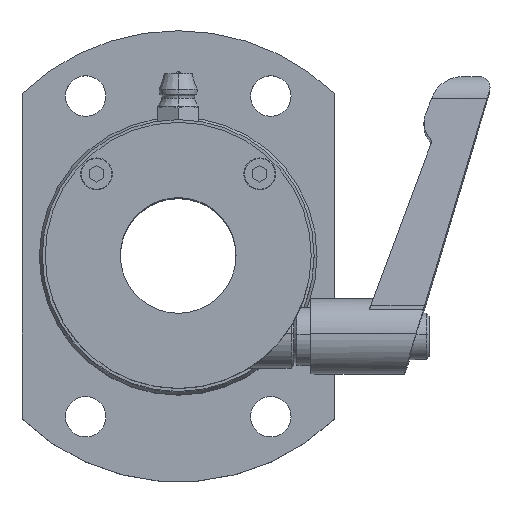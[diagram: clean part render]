
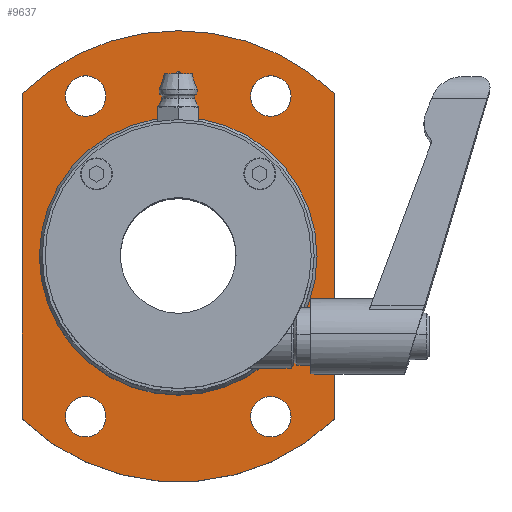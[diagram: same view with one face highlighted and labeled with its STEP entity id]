
A CAD part, top view. The second image highlights one B-rep face of the part: STEP entity #9637.
In plain terms, the highlighted planar face has unit normal (0, 0, 1).
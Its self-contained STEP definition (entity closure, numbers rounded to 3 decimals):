
#24 = CARTESIAN_POINT ( 'NONE',  ( -9.836, -2.51, 69. ) ) ;
#79 = EDGE_LOOP ( 'NONE', ( #1766, #167 ) ) ;
#167 = ORIENTED_EDGE ( 'NONE', *, *, #10853, .T. ) ;
#236 = CARTESIAN_POINT ( 'NONE',  ( -29.336, 25.202, 69. ) ) ;
#260 = VERTEX_POINT ( 'NONE', #4441 ) ;
#526 = EDGE_LOOP ( 'NONE', ( #4472, #8352 ) ) ;
#710 = DIRECTION ( 'NONE',  ( 0., 0., -1. ) ) ;
#801 = CIRCLE ( 'NONE', #9045, 39. ) ;
#805 = CIRCLE ( 'NONE', #8292, 24. ) ;
#854 = CARTESIAN_POINT ( 'NONE',  ( 17.164, -30.653, 69. ) ) ;
#959 = DIRECTION ( 'NONE',  ( 1., 0., 0. ) ) ;
#984 = EDGE_CURVE ( 'NONE', #6433, #5743, #6561, .T. ) ;
#1009 = DIRECTION ( 'NONE',  ( 0., 0., -1. ) ) ;
#1016 = DIRECTION ( 'NONE',  ( 1., 0., 0. ) ) ;
#1035 = DIRECTION ( 'NONE',  ( 1., 0., 0. ) ) ;
#1085 = CARTESIAN_POINT ( 'NONE',  ( 17.164, 25.632, 69. ) ) ;
#1153 = AXIS2_PLACEMENT_3D ( 'NONE', #7115, #4463, #1035 ) ;
#1177 = DIRECTION ( 'NONE',  ( 0., 0., -1. ) ) ;
#1300 = CARTESIAN_POINT ( 'NONE',  ( -9.836, 21.49, 69. ) ) ;
#1440 = CARTESIAN_POINT ( 'NONE',  ( 6.164, 25.202, 69. ) ) ;
#1465 = ORIENTED_EDGE ( 'NONE', *, *, #1522, .F. ) ;
#1485 = VERTEX_POINT ( 'NONE', #6871 ) ;
#1522 = EDGE_CURVE ( 'NONE', #1485, #7098, #7707, .T. ) ;
#1537 = EDGE_CURVE ( 'NONE', #3963, #5462, #9150, .T. ) ;
#1685 = DIRECTION ( 'NONE',  ( 0., 0., -1. ) ) ;
#1751 = ORIENTED_EDGE ( 'NONE', *, *, #8754, .T. ) ;
#1761 = DIRECTION ( 'NONE',  ( 0., 0., -1. ) ) ;
#1766 = ORIENTED_EDGE ( 'NONE', *, *, #984, .T. ) ;
#1830 = AXIS2_PLACEMENT_3D ( 'NONE', #6042, #9334, #7816 ) ;
#1882 = DIRECTION ( 'NONE',  ( 0., 1., 0. ) ) ;
#2042 = CIRCLE ( 'NONE', #7546, 3.5 ) ;
#2291 = AXIS2_PLACEMENT_3D ( 'NONE', #10994, #3253, #2358 ) ;
#2358 = DIRECTION ( 'NONE',  ( 1., 0., 0. ) ) ;
#2382 = CARTESIAN_POINT ( 'NONE',  ( 9.664, 25.202, 69. ) ) ;
#2390 = DIRECTION ( 'NONE',  ( 1., 0., 0. ) ) ;
#2563 = VERTEX_POINT ( 'NONE', #2382 ) ;
#2614 = AXIS2_PLACEMENT_3D ( 'NONE', #3606, #2781, #6166 ) ;
#2644 = FACE_BOUND ( 'NONE', #5084, .T. ) ;
#2649 = CARTESIAN_POINT ( 'NONE',  ( -9.836, -2.51, 69. ) ) ;
#2697 = CARTESIAN_POINT ( 'NONE',  ( -36.836, -30.653, 69. ) ) ;
#2724 = CIRCLE ( 'NONE', #8395, 3.5 ) ;
#2730 = ORIENTED_EDGE ( 'NONE', *, *, #2973, .T. ) ;
#2781 = DIRECTION ( 'NONE',  ( 0., 0., -1. ) ) ;
#2841 = CARTESIAN_POINT ( 'NONE',  ( 2.664, 25.202, 69. ) ) ;
#2929 = AXIS2_PLACEMENT_3D ( 'NONE', #24, #1685, #4206 ) ;
#2973 = EDGE_CURVE ( 'NONE', #8603, #260, #10566, .T. ) ;
#3080 = AXIS2_PLACEMENT_3D ( 'NONE', #10620, #1177, #1016 ) ;
#3168 = EDGE_CURVE ( 'NONE', #5462, #3963, #7162, .T. ) ;
#3253 = DIRECTION ( 'NONE',  ( 0., 0., -1. ) ) ;
#3318 = CARTESIAN_POINT ( 'NONE',  ( -9.836, 28.99, 69. ) ) ;
#3491 = CARTESIAN_POINT ( 'NONE',  ( -25.836, 25.202, 69. ) ) ;
#3606 = CARTESIAN_POINT ( 'NONE',  ( -9.836, -2.51, 69. ) ) ;
#3650 = ORIENTED_EDGE ( 'NONE', *, *, #7217, .T. ) ;
#3963 = VERTEX_POINT ( 'NONE', #236 ) ;
#4159 = ORIENTED_EDGE ( 'NONE', *, *, #6772, .F. ) ;
#4195 = FACE_OUTER_BOUND ( 'NONE', #7241, .T. ) ;
#4206 = DIRECTION ( 'NONE',  ( 0., 1., 0. ) ) ;
#4398 = DIRECTION ( 'NONE',  ( 0., 1., 0. ) ) ;
#4435 = FACE_BOUND ( 'NONE', #5413, .T. ) ;
#4441 = CARTESIAN_POINT ( 'NONE',  ( 9.664, -30.223, 69. ) ) ;
#4463 = DIRECTION ( 'NONE',  ( 0., 0., -1. ) ) ;
#4472 = ORIENTED_EDGE ( 'NONE', *, *, #3168, .T. ) ;
#4720 = CARTESIAN_POINT ( 'NONE',  ( 2.664, -30.223, 69. ) ) ;
#4840 = CARTESIAN_POINT ( 'NONE',  ( -36.836, 25.632, 69. ) ) ;
#4891 = DIRECTION ( 'NONE',  ( 0., 0., -1. ) ) ;
#5084 = EDGE_LOOP ( 'NONE', ( #6586, #2730 ) ) ;
#5180 = VERTEX_POINT ( 'NONE', #2841 ) ;
#5389 = VERTEX_POINT ( 'NONE', #10458 ) ;
#5409 = CARTESIAN_POINT ( 'NONE',  ( -22.336, -30.223, 69. ) ) ;
#5413 = EDGE_LOOP ( 'NONE', ( #7536, #3650 ) ) ;
#5462 = VERTEX_POINT ( 'NONE', #8893 ) ;
#5548 = EDGE_CURVE ( 'NONE', #2563, #5180, #2724, .T. ) ;
#5743 = VERTEX_POINT ( 'NONE', #6163 ) ;
#5770 = AXIS2_PLACEMENT_3D ( 'NONE', #9347, #4891, #9129 ) ;
#5841 = CARTESIAN_POINT ( 'NONE',  ( 6.164, 25.202, 69. ) ) ;
#5974 = DIRECTION ( 'NONE',  ( 1., 0., 0. ) ) ;
#6003 = ORIENTED_EDGE ( 'NONE', *, *, #6876, .T. ) ;
#6042 = CARTESIAN_POINT ( 'NONE',  ( -25.836, 25.202, 69. ) ) ;
#6163 = CARTESIAN_POINT ( 'NONE',  ( -29.336, -30.223, 69. ) ) ;
#6166 = DIRECTION ( 'NONE',  ( 0., 1., 0. ) ) ;
#6244 = ORIENTED_EDGE ( 'NONE', *, *, #10311, .T. ) ;
#6288 = AXIS2_PLACEMENT_3D ( 'NONE', #10177, #8441, #8328 ) ;
#6433 = VERTEX_POINT ( 'NONE', #5409 ) ;
#6561 = CIRCLE ( 'NONE', #2291, 3.5 ) ;
#6586 = ORIENTED_EDGE ( 'NONE', *, *, #6624, .T. ) ;
#6624 = EDGE_CURVE ( 'NONE', #260, #8603, #10038, .T. ) ;
#6772 = EDGE_CURVE ( 'NONE', #9052, #1485, #10445, .T. ) ;
#6824 = CARTESIAN_POINT ( 'NONE',  ( -9.836, -2.51, 69. ) ) ;
#6834 = CIRCLE ( 'NONE', #5770, 24. ) ;
#6861 = EDGE_CURVE ( 'NONE', #10810, #10086, #801, .T. ) ;
#6871 = CARTESIAN_POINT ( 'NONE',  ( -9.836, 36.49, 69. ) ) ;
#6876 = EDGE_CURVE ( 'NONE', #10810, #7098, #6882, .T. ) ;
#6882 = LINE ( 'NONE', #854, #8126 ) ;
#6919 = DIRECTION ( 'NONE',  ( 0., 1., 0. ) ) ;
#7098 = VERTEX_POINT ( 'NONE', #1085 ) ;
#7115 = CARTESIAN_POINT ( 'NONE',  ( -25.836, -30.223, 69. ) ) ;
#7162 = CIRCLE ( 'NONE', #1830, 3.5 ) ;
#7217 = EDGE_CURVE ( 'NONE', #5389, #10007, #805, .T. ) ;
#7241 = EDGE_LOOP ( 'NONE', ( #6003, #1465, #4159, #6244, #9969 ) ) ;
#7322 = DIRECTION ( 'NONE',  ( 0., -1., 0. ) ) ;
#7536 = ORIENTED_EDGE ( 'NONE', *, *, #9164, .T. ) ;
#7546 = AXIS2_PLACEMENT_3D ( 'NONE', #5841, #8391, #2390 ) ;
#7707 = CIRCLE ( 'NONE', #2929, 39. ) ;
#7730 = AXIS2_PLACEMENT_3D ( 'NONE', #3318, #8596, #5974 ) ;
#7816 = DIRECTION ( 'NONE',  ( 1., 0., 0. ) ) ;
#7897 = AXIS2_PLACEMENT_3D ( 'NONE', #3491, #8427, #959 ) ;
#8126 = VECTOR ( 'NONE', #4398, 1000. ) ;
#8292 = AXIS2_PLACEMENT_3D ( 'NONE', #2649, #1009, #6919 ) ;
#8328 = DIRECTION ( 'NONE',  ( 1., 0., 0. ) ) ;
#8352 = ORIENTED_EDGE ( 'NONE', *, *, #1537, .T. ) ;
#8391 = DIRECTION ( 'NONE',  ( 0., 0., -1. ) ) ;
#8395 = AXIS2_PLACEMENT_3D ( 'NONE', #1440, #710, #9756 ) ;
#8414 = FACE_BOUND ( 'NONE', #8728, .T. ) ;
#8427 = DIRECTION ( 'NONE',  ( 0., 0., -1. ) ) ;
#8441 = DIRECTION ( 'NONE',  ( 0., 0., -1. ) ) ;
#8596 = DIRECTION ( 'NONE',  ( 0., 0., 1. ) ) ;
#8603 = VERTEX_POINT ( 'NONE', #4720 ) ;
#8659 = FACE_BOUND ( 'NONE', #79, .T. ) ;
#8728 = EDGE_LOOP ( 'NONE', ( #10713, #1751 ) ) ;
#8754 = EDGE_CURVE ( 'NONE', #5180, #2563, #2042, .T. ) ;
#8893 = CARTESIAN_POINT ( 'NONE',  ( -22.336, 25.202, 69. ) ) ;
#9045 = AXIS2_PLACEMENT_3D ( 'NONE', #6824, #1761, #1882 ) ;
#9052 = VERTEX_POINT ( 'NONE', #4840 ) ;
#9129 = DIRECTION ( 'NONE',  ( 0., 1., 0. ) ) ;
#9150 = CIRCLE ( 'NONE', #7897, 3.5 ) ;
#9164 = EDGE_CURVE ( 'NONE', #10007, #5389, #6834, .T. ) ;
#9319 = PLANE ( 'NONE',  #7730 ) ;
#9334 = DIRECTION ( 'NONE',  ( 0., 0., -1. ) ) ;
#9347 = CARTESIAN_POINT ( 'NONE',  ( -9.836, -2.51, 69. ) ) ;
#9485 = FACE_BOUND ( 'NONE', #526, .T. ) ;
#9637 = ADVANCED_FACE ( 'NONE', ( #4195, #2644, #9485, #8414, #8659, #4435 ), #9319, .T. ) ;
#9725 = CIRCLE ( 'NONE', #1153, 3.5 ) ;
#9756 = DIRECTION ( 'NONE',  ( 1., 0., 0. ) ) ;
#9887 = VECTOR ( 'NONE', #7322, 1000. ) ;
#9954 = CARTESIAN_POINT ( 'NONE',  ( -36.836, 25.632, 69. ) ) ;
#9969 = ORIENTED_EDGE ( 'NONE', *, *, #6861, .F. ) ;
#9999 = LINE ( 'NONE', #9954, #9887 ) ;
#10007 = VERTEX_POINT ( 'NONE', #1300 ) ;
#10038 = CIRCLE ( 'NONE', #6288, 3.5 ) ;
#10084 = CARTESIAN_POINT ( 'NONE',  ( 17.164, -30.653, 69. ) ) ;
#10086 = VERTEX_POINT ( 'NONE', #2697 ) ;
#10177 = CARTESIAN_POINT ( 'NONE',  ( 6.164, -30.223, 69. ) ) ;
#10311 = EDGE_CURVE ( 'NONE', #9052, #10086, #9999, .T. ) ;
#10445 = CIRCLE ( 'NONE', #2614, 39. ) ;
#10458 = CARTESIAN_POINT ( 'NONE',  ( -9.836, -26.51, 69. ) ) ;
#10566 = CIRCLE ( 'NONE', #3080, 3.5 ) ;
#10620 = CARTESIAN_POINT ( 'NONE',  ( 6.164, -30.223, 69. ) ) ;
#10713 = ORIENTED_EDGE ( 'NONE', *, *, #5548, .T. ) ;
#10810 = VERTEX_POINT ( 'NONE', #10084 ) ;
#10853 = EDGE_CURVE ( 'NONE', #5743, #6433, #9725, .T. ) ;
#10994 = CARTESIAN_POINT ( 'NONE',  ( -25.836, -30.223, 69. ) ) ;
